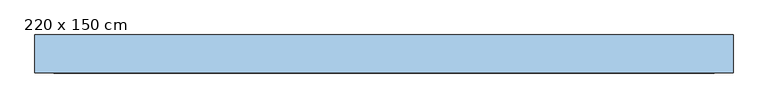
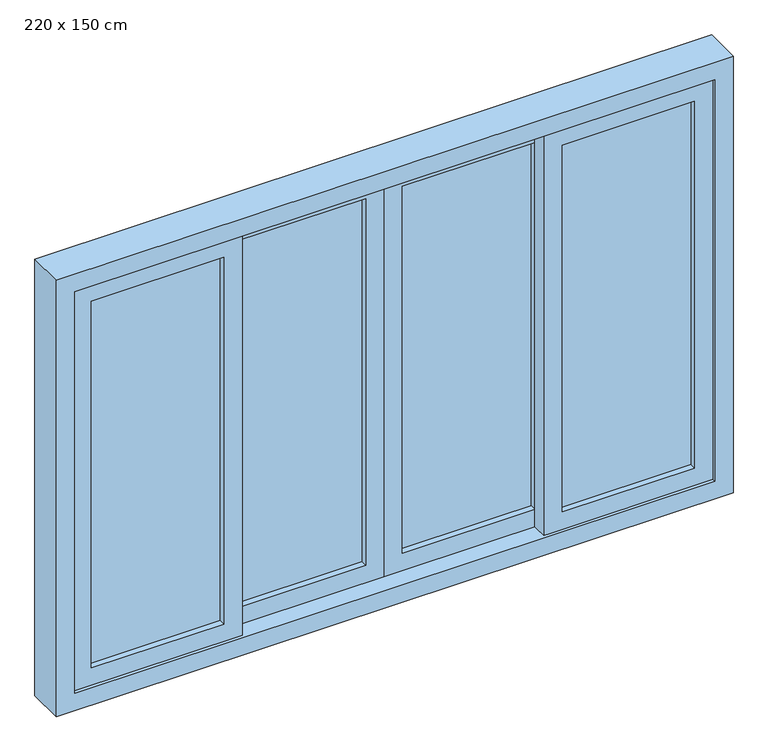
"""IFC4 building model written with IfcOpenShell, lengths in millimetres: window geometry, 四開窗- (1) : 220 x 150 cm."""

from ifc_helpers import new_model, si_unit, frame, origin, place, context, project, spatial, polyline, outline, extrude, source, transform, mapped, element, save


def window_220_x_150_cm_21dcba9c(model_context):
    return source(origin(), model_context, "Body", "SweptSolid", [
        extrude(outline(polyline([(2340.0, -1040.0), (960.0, -1040.0), (960.0, -490.0), (2340.0, -490.0), (2340.0, -1040.0)]), holes=[polyline([(2280.0, -980.0), (2280.0, -550.0), (1020.0, -550.0), (1020.0, -980.0), (2280.0, -980.0)])]), frame((0.0, -230.0, 0.0), z_axis=(0.0, 1.0, 0.0), x_axis=(0.0, 0.0, 1.0)), (0.0, 0.0, 1.0), 50.0),
        extrude(outline(polyline([(-550.0, -200.0), (-550.0, -210.0), (-980.0, -210.0), (-980.0, -200.0), (-550.0, -200.0)])), frame((0.0, 0.0, 1020.0), z_axis=(0.0, 0.0, 1.0), x_axis=(1.0, 0.0, 0.0)), (0.0, 0.0, 1.0), 1260.0),
        extrude(outline(polyline([(2340.0, -550.0), (960.0, -550.0), (960.0, 0.0), (2340.0, 0.0), (2340.0, -550.0)]), holes=[polyline([(2280.0, -490.0), (2280.0, -60.0), (1020.0, -60.0), (1020.0, -490.0), (2280.0, -490.0)])]), frame((0.0, -180.0, 0.0), z_axis=(0.0, 1.0, 0.0), x_axis=(0.0, 0.0, 1.0)), (0.0, 0.0, 1.0), 50.0),
        extrude(outline(polyline([(-60.0, -160.0), (-490.0, -160.0), (-490.0, -150.0), (-60.0, -150.0), (-60.0, -160.0)])), frame((0.0, 0.0, 1020.0), z_axis=(0.0, 0.0, 1.0), x_axis=(1.0, 0.0, 0.0)), (0.0, 0.0, 1.0), 1260.0),
        extrude(outline(polyline([(2340.0, 1040.0), (2340.0, 490.0), (960.0, 490.0), (960.0, 1040.0), (2340.0, 1040.0)]), holes=[polyline([(2280.0, 980.0), (1020.0, 980.0), (1020.0, 550.0), (2280.0, 550.0), (2280.0, 980.0)])]), frame((0.0, -230.0, 0.0), z_axis=(0.0, 1.0, 0.0), x_axis=(0.0, 0.0, 1.0)), (0.0, 0.0, 1.0), 50.0),
        extrude(outline(polyline([(550.0, -200.0), (980.0, -200.0), (980.0, -210.0), (550.0, -210.0), (550.0, -200.0)])), frame((0.0, 0.0, 1020.0), z_axis=(0.0, 0.0, 1.0), x_axis=(1.0, 0.0, 0.0)), (0.0, 0.0, 1.0), 1260.0),
        extrude(outline(polyline([(2340.0, 550.0), (2340.0, 0.0), (960.0, 0.0), (960.0, 550.0), (2340.0, 550.0)]), holes=[polyline([(2280.0, 490.0), (1020.0, 490.0), (1020.0, 60.0), (2280.0, 60.0), (2280.0, 490.0)])]), frame((0.0, -180.0, 0.0), z_axis=(0.0, 1.0, 0.0), x_axis=(0.0, 0.0, 1.0)), (0.0, 0.0, 1.0), 50.0),
        extrude(outline(polyline([(60.0, -160.0), (60.0, -150.0), (490.0, -150.0), (490.0, -160.0), (60.0, -160.0)])), frame((0.0, 0.0, 1020.0), z_axis=(0.0, 0.0, 1.0), x_axis=(1.0, 0.0, 0.0)), (0.0, 0.0, 1.0), 1260.0),
        extrude(outline(polyline([(2400.0, 1100.0), (2400.0, -1100.0), (900.0, -1100.0), (900.0, 1100.0), (2400.0, 1100.0)]), holes=[polyline([(2340.0, 1040.0), (960.0, 1040.0), (960.0, -1040.0), (2340.0, -1040.0), (2340.0, 1040.0)])]), frame((0.0, -240.0, 0.0), z_axis=(0.0, 1.0, 0.0), x_axis=(0.0, 0.0, 1.0)), (0.0, 0.0, 1.0), 120.0),
    ])


if __name__ == "__main__":
    model = new_model("IFC4")
    model_context = context("Model", 3, world=origin())
    ifc_project = project(units=[si_unit("LENGTHUNIT", "METRE", prefix="MILLI")], contexts=[model_context])
    site = spatial("IfcSite", under=ifc_project)
    building = spatial("IfcBuilding", under=site)
    placement = place(None, origin())
    window_220_x_150_cm_shape = window_220_x_150_cm_21dcba9c(model_context)
    element("IfcWindow", 1, ObjectType="四開窗- (1) : 220 x 150 cm", at=placement, inside=building, context=model_context, shape_type="MappedRepresentation", body=[
        mapped(window_220_x_150_cm_shape, transform((0.0, 0.0, 0.0), x_axis=(1.0, 0.0, 0.0), y_axis=(0.0, 1.0, 0.0), z_axis=(0.0, 0.0, 1.0))),
    ])
    save(model, "model.ifc")
